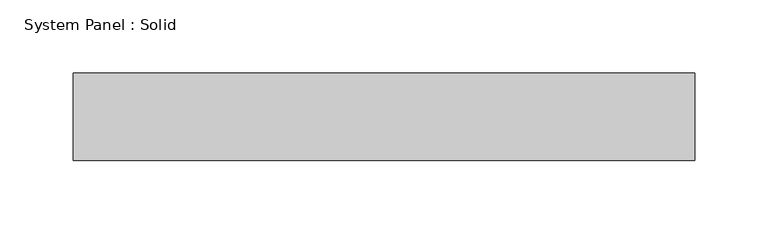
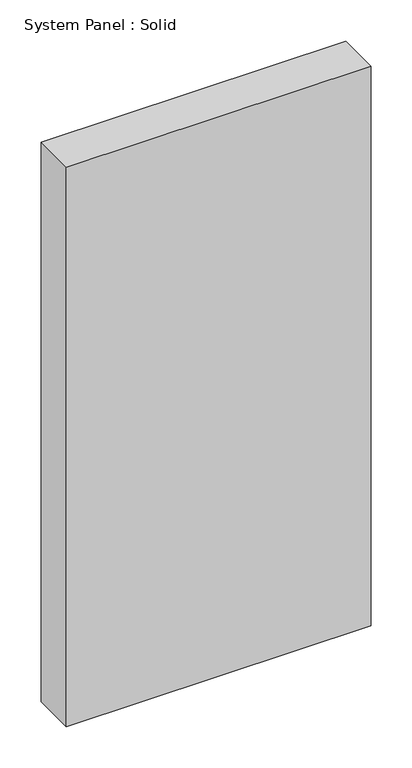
"""IFC4 building model written with IfcOpenShell, lengths in millimetres: plate geometry, System Panel : Solid."""

from ifc_helpers import new_model, si_unit, origin, origin_with_axes, place, context, project, spatial, polyline, outline, extrude, source, transform, mapped, element, save


def system_panel_solid_3e9ab903(model_context):
    return source(origin(), model_context, "Body", "SweptSolid", [
        extrude(outline(polyline([(212.5000001, -49.5), (-212.5000001, -49.5), (-212.5000001, 10.5), (212.5000001, 10.5), (212.5000001, -49.5)])), origin_with_axes(), (0.0, 0.0, 1.0), 825.0),
    ])


if __name__ == "__main__":
    model = new_model("IFC4")
    model_context = context("Model", 3, world=origin())
    ifc_project = project(units=[si_unit("LENGTHUNIT", "METRE", prefix="MILLI")], contexts=[model_context])
    site = spatial("IfcSite", under=ifc_project)
    building = spatial("IfcBuilding", under=site)
    placement = place(None, origin())
    system_panel_solid_shape = system_panel_solid_3e9ab903(model_context)
    element("IfcPlate", 1, ObjectType="System Panel : Solid", at=placement, inside=building, context=model_context, shape_type="MappedRepresentation", body=[
        mapped(system_panel_solid_shape, transform((0.0, 0.0, 0.0), x_axis=(1.0, 0.0, 0.0), y_axis=(0.0, 1.0, 0.0), z_axis=(0.0, 0.0, 1.0))),
    ])
    save(model, "model.ifc")
